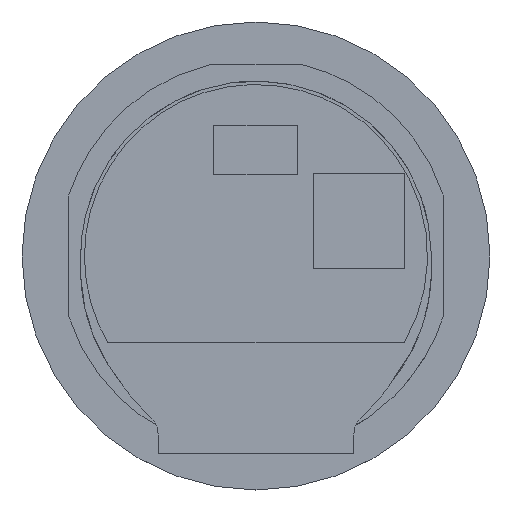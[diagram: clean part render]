
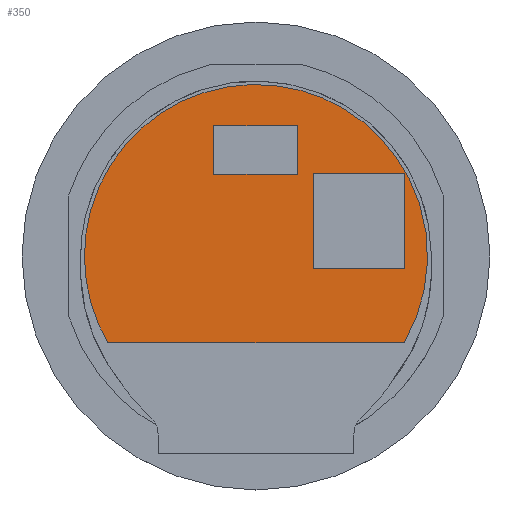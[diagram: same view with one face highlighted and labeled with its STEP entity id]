
A CAD part, top view. The second image highlights one B-rep face of the part: STEP entity #350.
In plain terms, the highlighted planar face has unit normal (0, 0, 1).
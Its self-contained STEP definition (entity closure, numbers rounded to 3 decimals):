
#350=ADVANCED_FACE('',(#489),#423,.F.);
#423=PLANE('',#1457);
#489=FACE_OUTER_BOUND('',#561,.T.);
#561=EDGE_LOOP('',(#775,#776));
#775=ORIENTED_EDGE('',*,*,#1257,.T.);
#776=ORIENTED_EDGE('',*,*,#1260,.T.);
#1133=VERTEX_POINT('',#1756);
#1134=VERTEX_POINT('',#1762);
#1257=EDGE_CURVE('',#1134,#1133,#1438,.T.);
#1260=EDGE_CURVE('',#1133,#1134,#1440,.T.);
#1438=(
BOUNDED_CURVE()
B_SPLINE_CURVE(4,(#1757,#1758,#1759,#1760,#1761),.UNSPECIFIED.,.F.,.F.)
B_SPLINE_CURVE_WITH_KNOTS((5,5),(0.,1.),.UNSPECIFIED.)
CURVE()
GEOMETRIC_REPRESENTATION_ITEM()
RATIONAL_B_SPLINE_CURVE((1.,1.,1.,1.,1.))
REPRESENTATION_ITEM('')
);
#1440=(
BOUNDED_CURVE()
B_SPLINE_CURVE(4,(#1784,#1785,#1786,#1787,#1788,#1789,#1790,#1791,#1792,
#1793,#1794,#1795,#1796,#1797,#1798,#1799,#1800,#1801,#1802),
 .UNSPECIFIED.,.F.,.F.)
B_SPLINE_CURVE_WITH_KNOTS((5,4,3,3,4,5),(0.,0.131,0.378,
0.624,0.871,1.),.UNSPECIFIED.)
CURVE()
GEOMETRIC_REPRESENTATION_ITEM()
RATIONAL_B_SPLINE_CURVE((1.,0.983,0.977,0.983,
1.,1.,0.988,1.,1.,0.988,1.,1.,0.988,
1.,1.,0.983,0.977,0.983,1.))
REPRESENTATION_ITEM('')
);
#1457=AXIS2_PLACEMENT_3D('',#1804,#1537,#1538);
#1537=DIRECTION('',(0.,0.,-1.));
#1538=DIRECTION('',(-1.,0.,0.));
#1756=CARTESIAN_POINT('',(578.388,-0.509,1.));
#1757=CARTESIAN_POINT('',(530.908,-0.509,1.));
#1758=CARTESIAN_POINT('',(542.778,-0.509,1.));
#1759=CARTESIAN_POINT('',(554.648,-0.509,1.));
#1760=CARTESIAN_POINT('',(566.518,-0.509,1.));
#1761=CARTESIAN_POINT('',(578.388,-0.509,1.));
#1762=CARTESIAN_POINT('',(530.908,-0.509,1.));
#1784=CARTESIAN_POINT('',(578.388,-0.509,1.));
#1785=CARTESIAN_POINT('',(580.235,2.649,1.));
#1786=CARTESIAN_POINT('',(581.507,6.095,1.));
#1787=CARTESIAN_POINT('',(582.148,9.712,1.));
#1788=CARTESIAN_POINT('',(582.148,13.371,1.));
#1789=CARTESIAN_POINT('',(582.148,20.246,1.));
#1790=CARTESIAN_POINT('',(579.829,27.909,1.));
#1791=CARTESIAN_POINT('',(574.352,33.749,1.));
#1792=CARTESIAN_POINT('',(562.444,40.624,1.));
#1793=CARTESIAN_POINT('',(554.648,42.447,1.));
#1794=CARTESIAN_POINT('',(546.852,40.624,1.));
#1795=CARTESIAN_POINT('',(534.944,33.749,1.));
#1796=CARTESIAN_POINT('',(529.468,27.909,1.));
#1797=CARTESIAN_POINT('',(527.148,20.246,1.));
#1798=CARTESIAN_POINT('',(527.148,13.371,1.));
#1799=CARTESIAN_POINT('',(527.148,9.712,1.));
#1800=CARTESIAN_POINT('',(527.79,6.095,1.));
#1801=CARTESIAN_POINT('',(529.061,2.649,1.));
#1802=CARTESIAN_POINT('',(530.908,-0.509,1.));
#1804=CARTESIAN_POINT('',(554.785,40.87,1.));
